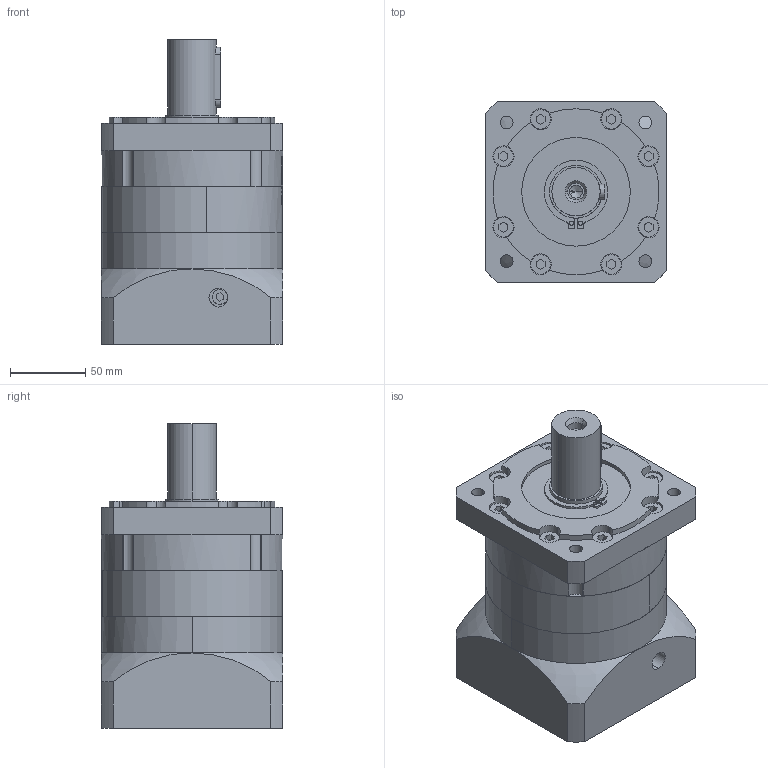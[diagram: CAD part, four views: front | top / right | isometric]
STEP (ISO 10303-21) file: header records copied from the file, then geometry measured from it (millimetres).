
FILE_DESCRIPTION (( 'STEP AP203' ), '1' );
FILE_NAME ('PLF120-L1 24-110-145-32.STEP', '2022-06-22T08:53:16', ( 'Windows User' ), ( 'P R C' ), 'SwSTEP 2.0', 'SolidWorks 2016', '' );
FILE_SCHEMA (( 'CONFIG_CONTROL_DESIGN' ));
Length unit declared in the file: millimetre
Products named in the file (8): 囀鞠褒蹟佪 M6x20; PLF120 蟀諉啣-110-M8-145-LR57; PLF120 κｳﾝﾈｦ-ﾓﾅｻｯ_ﾒｻｼｶﾄﾚｳﾝﾈｦ; PLF120 奻屳唳-32; PLF120 狟屳唳-24; 粣創-6007 40x68x15; 邧埴瑩 10x8x40; PLF120-L1 24-110-145-32
Assembly tree (7 placements, depth 2):
  PLF120-L1 24-110-145-32
    囀鞠褒蹟佪 M6x20
    PLF120 蟀諉啣-110-M8-145-LR57
    PLF120 κｳﾝﾈｦ-ﾓﾅｻｯ_ﾒｻｼｶﾄﾚｳﾝﾈｦ
    PLF120 奻屳唳-32
    PLF120 狟屳唳-24
    粣創-6007 40x68x15
    邧埴瑩 10x8x40
Bounding box: 120 x 120 x 202 mm (x, y, z)
Volume: 1713567 mm3; surface area: 244345 mm2
Topology: 7 solids, 15 shells, 1198 faces, 3254 edges, 2149 vertices
Faces by surface type: plane 676, cylinder 227, bspline 135, sphere 94, torus 52, cone 14
Entity records: 48339 total; most frequent: CARTESIAN_POINT 18145, ORIENTED_EDGE 6476, DIRECTION 5578, EDGE_CURVE 3238, VERTEX_POINT 2145, AXIS2_PLACEMENT_3D 1949, LINE 1680, VECTOR 1680
